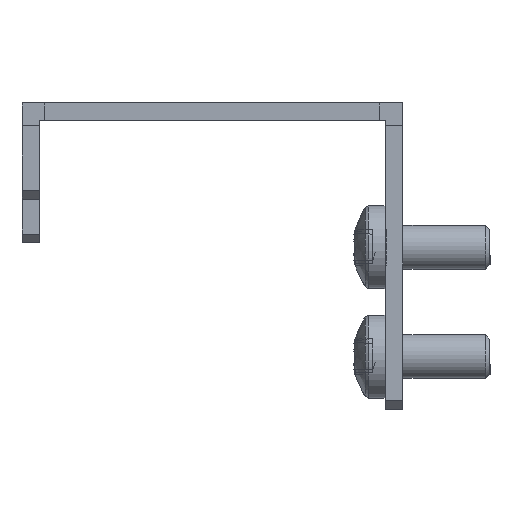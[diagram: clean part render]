
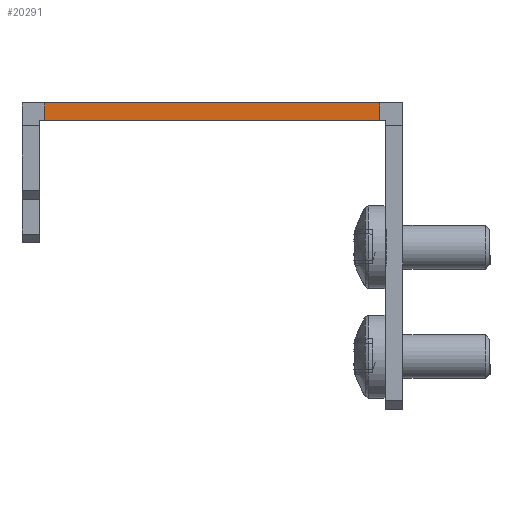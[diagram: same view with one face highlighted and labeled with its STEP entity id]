
A CAD part, left-side view. The second image highlights one B-rep face of the part: STEP entity #20291.
In plain terms, the highlighted planar face has unit normal (-1, 0, 0) as drawn and (1, 0, 0) by its records, which use the part's own axes.
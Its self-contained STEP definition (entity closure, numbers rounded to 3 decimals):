
#14366 = VERTEX_POINT('',#14367);
#14367 = CARTESIAN_POINT('',(581.,19.15,-2.));
#14373 = EDGE_CURVE('',#14374,#14366,#14376,.T.);
#14374 = VERTEX_POINT('',#14375);
#14375 = CARTESIAN_POINT('',(581.,-19.15,-2.));
#14376 = LINE('',#14377,#14378);
#14377 = CARTESIAN_POINT('',(581.,-21.75,-2.));
#14378 = VECTOR('',#14379,1.);
#14379 = DIRECTION('',(0.,1.,0.));
#19831 = VERTEX_POINT('',#19832);
#19832 = CARTESIAN_POINT('',(581.,-19.15,0.));
#19838 = EDGE_CURVE('',#19831,#19839,#19841,.T.);
#19839 = VERTEX_POINT('',#19840);
#19840 = CARTESIAN_POINT('',(581.,19.15,0.));
#19841 = LINE('',#19842,#19843);
#19842 = CARTESIAN_POINT('',(581.,-21.75,0.));
#19843 = VECTOR('',#19844,1.);
#19844 = DIRECTION('',(0.,1.,0.));
#20291 = ADVANCED_FACE('',(#20292),#20308,.T.);
#20292 = FACE_BOUND('',#20293,.T.);
#20293 = EDGE_LOOP('',(#20294,#20300,#20301,#20307));
#20294 = ORIENTED_EDGE('',*,*,#20295,.F.);
#20295 = EDGE_CURVE('',#14374,#19831,#20296,.T.);
#20296 = LINE('',#20297,#20298);
#20297 = CARTESIAN_POINT('',(581.,-19.15,-2.));
#20298 = VECTOR('',#20299,1.);
#20299 = DIRECTION('',(0.,0.,1.));
#20300 = ORIENTED_EDGE('',*,*,#14373,.T.);
#20301 = ORIENTED_EDGE('',*,*,#20302,.T.);
#20302 = EDGE_CURVE('',#14366,#19839,#20303,.T.);
#20303 = LINE('',#20304,#20305);
#20304 = CARTESIAN_POINT('',(581.,19.15,-2.));
#20305 = VECTOR('',#20306,1.);
#20306 = DIRECTION('',(0.,0.,1.));
#20307 = ORIENTED_EDGE('',*,*,#19838,.F.);
#20308 = PLANE('',#20309);
#20309 = AXIS2_PLACEMENT_3D('',#20310,#20311,#20312);
#20310 = CARTESIAN_POINT('',(581.,-21.75,-2.));
#20311 = DIRECTION('',(1.,0.,0.));
#20312 = DIRECTION('',(0.,0.,-1.));
